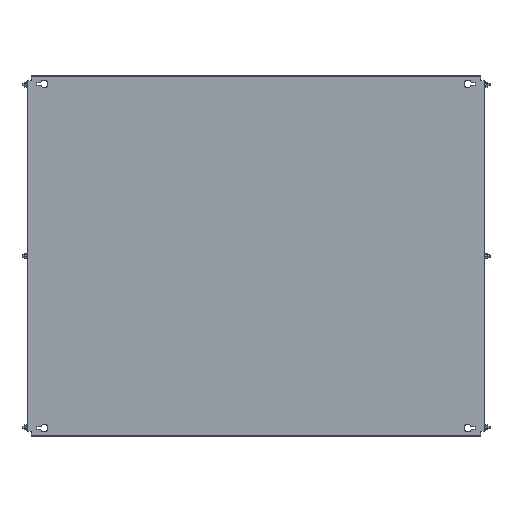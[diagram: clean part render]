
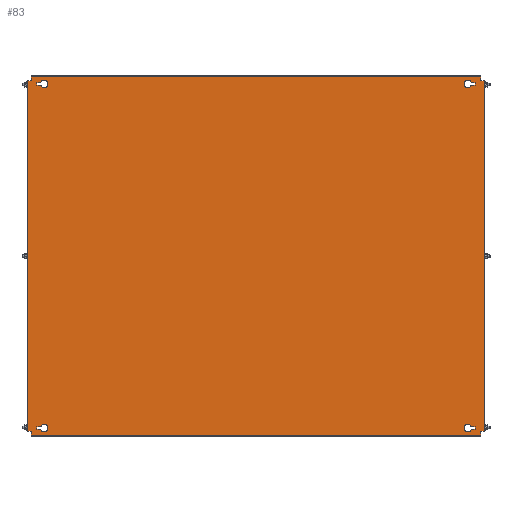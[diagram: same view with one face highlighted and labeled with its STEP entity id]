
A CAD part, top view. The second image highlights one B-rep face of the part: STEP entity #83.
In plain terms, the highlighted planar face has unit normal (0, 0, 1).
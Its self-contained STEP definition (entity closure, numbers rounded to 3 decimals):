
#83 = ADVANCED_FACE('',(#84,#119,#154,#316,#351),#386,.T.);
#84 = FACE_BOUND('',#85,.T.);
#85 = EDGE_LOOP('',(#86,#96,#104,#112));
#86 = ORIENTED_EDGE('',*,*,#87,.T.);
#87 = EDGE_CURVE('',#88,#90,#92,.T.);
#88 = VERTEX_POINT('',#89);
#89 = CARTESIAN_POINT('',(518.393,417.75,2.5));
#90 = VERTEX_POINT('',#91);
#91 = CARTESIAN_POINT('',(528.,417.75,2.5));
#92 = LINE('',#93,#94);
#93 = CARTESIAN_POINT('',(527.,417.75,2.5));
#94 = VECTOR('',#95,1.);
#95 = DIRECTION('',(1.,0.,0.));
#96 = ORIENTED_EDGE('',*,*,#97,.T.);
#97 = EDGE_CURVE('',#90,#98,#100,.T.);
#98 = VERTEX_POINT('',#99);
#99 = CARTESIAN_POINT('',(528.,411.25,2.5));
#100 = LINE('',#101,#102);
#101 = CARTESIAN_POINT('',(528.,417.75,2.5));
#102 = VECTOR('',#103,1.);
#103 = DIRECTION('',(0.,-1.,0.));
#104 = ORIENTED_EDGE('',*,*,#105,.T.);
#105 = EDGE_CURVE('',#98,#106,#108,.T.);
#106 = VERTEX_POINT('',#107);
#107 = CARTESIAN_POINT('',(518.393,411.25,2.5));
#108 = LINE('',#109,#110);
#109 = CARTESIAN_POINT('',(527.,411.25,2.5));
#110 = VECTOR('',#111,1.);
#111 = DIRECTION('',(-1.,0.,0.));
#112 = ORIENTED_EDGE('',*,*,#113,.T.);
#113 = EDGE_CURVE('',#106,#88,#114,.T.);
#114 = CIRCLE('',#115,9.);
#115 = AXIS2_PLACEMENT_3D('',#116,#117,#118);
#116 = CARTESIAN_POINT('',(510.,414.5,2.5));
#117 = DIRECTION('',(0.,0.,-1.));
#118 = DIRECTION('',(1.,0.,0.));
#119 = FACE_BOUND('',#120,.T.);
#120 = EDGE_LOOP('',(#121,#131,#139,#147));
#121 = ORIENTED_EDGE('',*,*,#122,.T.);
#122 = EDGE_CURVE('',#123,#125,#127,.T.);
#123 = VERTEX_POINT('',#124);
#124 = CARTESIAN_POINT('',(-518.393,-417.75,2.5));
#125 = VERTEX_POINT('',#126);
#126 = CARTESIAN_POINT('',(-528.,-417.75,2.5));
#127 = LINE('',#128,#129);
#128 = CARTESIAN_POINT('',(-527.,-417.75,2.5));
#129 = VECTOR('',#130,1.);
#130 = DIRECTION('',(-1.,0.,0.));
#131 = ORIENTED_EDGE('',*,*,#132,.T.);
#132 = EDGE_CURVE('',#125,#133,#135,.T.);
#133 = VERTEX_POINT('',#134);
#134 = CARTESIAN_POINT('',(-528.,-411.25,2.5));
#135 = LINE('',#136,#137);
#136 = CARTESIAN_POINT('',(-528.,-417.75,2.5));
#137 = VECTOR('',#138,1.);
#138 = DIRECTION('',(0.,1.,0.));
#139 = ORIENTED_EDGE('',*,*,#140,.T.);
#140 = EDGE_CURVE('',#133,#141,#143,.T.);
#141 = VERTEX_POINT('',#142);
#142 = CARTESIAN_POINT('',(-518.393,-411.25,2.5));
#143 = LINE('',#144,#145);
#144 = CARTESIAN_POINT('',(-527.,-411.25,2.5));
#145 = VECTOR('',#146,1.);
#146 = DIRECTION('',(1.,-0.,-0.));
#147 = ORIENTED_EDGE('',*,*,#148,.T.);
#148 = EDGE_CURVE('',#141,#123,#149,.T.);
#149 = CIRCLE('',#150,9.);
#150 = AXIS2_PLACEMENT_3D('',#151,#152,#153);
#151 = CARTESIAN_POINT('',(-510.,-414.5,2.5));
#152 = DIRECTION('',(0.,0.,-1.));
#153 = DIRECTION('',(-1.,0.,0.));
#154 = FACE_BOUND('',#155,.T.);
#155 = EDGE_LOOP('',(#156,#166,#174,#182,#190,#198,#206,#214,#222,#230,
    #238,#246,#254,#262,#270,#278,#286,#294,#302,#310));
#156 = ORIENTED_EDGE('',*,*,#157,.F.);
#157 = EDGE_CURVE('',#158,#160,#162,.T.);
#158 = VERTEX_POINT('',#159);
#159 = CARTESIAN_POINT('',(-546.9,422.5,2.5));
#160 = VERTEX_POINT('',#161);
#161 = CARTESIAN_POINT('',(-541.5,422.5,2.5));
#162 = LINE('',#163,#164);
#163 = CARTESIAN_POINT('',(-547.5,422.5,2.5));
#164 = VECTOR('',#165,1.);
#165 = DIRECTION('',(1.,0.,-0.));
#166 = ORIENTED_EDGE('',*,*,#167,.T.);
#167 = EDGE_CURVE('',#158,#168,#170,.T.);
#168 = VERTEX_POINT('',#169);
#169 = CARTESIAN_POINT('',(-550.,422.5,2.5));
#170 = LINE('',#171,#172);
#171 = CARTESIAN_POINT('',(-546.9,422.5,2.5));
#172 = VECTOR('',#173,1.);
#173 = DIRECTION('',(-1.,0.,0.));
#174 = ORIENTED_EDGE('',*,*,#175,.F.);
#175 = EDGE_CURVE('',#176,#168,#178,.T.);
#176 = VERTEX_POINT('',#177);
#177 = CARTESIAN_POINT('',(-550.,-422.5,2.5));
#178 = LINE('',#179,#180);
#179 = CARTESIAN_POINT('',(-550.,-432.,2.5));
#180 = VECTOR('',#181,1.);
#181 = DIRECTION('',(0.,1.,-0.));
#182 = ORIENTED_EDGE('',*,*,#183,.F.);
#183 = EDGE_CURVE('',#184,#176,#186,.T.);
#184 = VERTEX_POINT('',#185);
#185 = CARTESIAN_POINT('',(-546.9,-422.5,2.5));
#186 = LINE('',#187,#188);
#187 = CARTESIAN_POINT('',(-541.5,-422.5,2.5));
#188 = VECTOR('',#189,1.);
#189 = DIRECTION('',(-1.,-0.,-0.));
#190 = ORIENTED_EDGE('',*,*,#191,.T.);
#191 = EDGE_CURVE('',#184,#192,#194,.T.);
#192 = VERTEX_POINT('',#193);
#193 = CARTESIAN_POINT('',(-541.5,-422.5,2.5));
#194 = LINE('',#195,#196);
#195 = CARTESIAN_POINT('',(-547.5,-422.5,2.5));
#196 = VECTOR('',#197,1.);
#197 = DIRECTION('',(1.,0.,-0.));
#198 = ORIENTED_EDGE('',*,*,#199,.T.);
#199 = EDGE_CURVE('',#192,#200,#202,.T.);
#200 = VERTEX_POINT('',#201);
#201 = CARTESIAN_POINT('',(-541.5,-431.4,2.5));
#202 = LINE('',#203,#204);
#203 = CARTESIAN_POINT('',(-541.5,432.,2.5));
#204 = VECTOR('',#205,1.);
#205 = DIRECTION('',(0.,-1.,0.));
#206 = ORIENTED_EDGE('',*,*,#207,.T.);
#207 = EDGE_CURVE('',#200,#208,#210,.T.);
#208 = VERTEX_POINT('',#209);
#209 = CARTESIAN_POINT('',(-541.5,-432.,2.5));
#210 = LINE('',#211,#212);
#211 = CARTESIAN_POINT('',(-541.5,-431.4,2.5));
#212 = VECTOR('',#213,1.);
#213 = DIRECTION('',(-0.,-1.,-0.));
#214 = ORIENTED_EDGE('',*,*,#215,.T.);
#215 = EDGE_CURVE('',#208,#216,#218,.T.);
#216 = VERTEX_POINT('',#217);
#217 = CARTESIAN_POINT('',(541.5,-432.,2.5));
#218 = LINE('',#219,#220);
#219 = CARTESIAN_POINT('',(541.5,-432.,2.5));
#220 = VECTOR('',#221,1.);
#221 = DIRECTION('',(1.,0.,0.));
#222 = ORIENTED_EDGE('',*,*,#223,.F.);
#223 = EDGE_CURVE('',#224,#216,#226,.T.);
#224 = VERTEX_POINT('',#225);
#225 = CARTESIAN_POINT('',(541.5,-431.4,2.5));
#226 = LINE('',#227,#228);
#227 = CARTESIAN_POINT('',(541.5,-432.,2.5));
#228 = VECTOR('',#229,1.);
#229 = DIRECTION('',(0.,-1.,0.));
#230 = ORIENTED_EDGE('',*,*,#231,.T.);
#231 = EDGE_CURVE('',#224,#232,#234,.T.);
#232 = VERTEX_POINT('',#233);
#233 = CARTESIAN_POINT('',(541.5,-422.5,2.5));
#234 = LINE('',#235,#236);
#235 = CARTESIAN_POINT('',(541.5,432.,2.5));
#236 = VECTOR('',#237,1.);
#237 = DIRECTION('',(0.,1.,-0.));
#238 = ORIENTED_EDGE('',*,*,#239,.F.);
#239 = EDGE_CURVE('',#240,#232,#242,.T.);
#240 = VERTEX_POINT('',#241);
#241 = CARTESIAN_POINT('',(546.9,-422.5,2.5));
#242 = LINE('',#243,#244);
#243 = CARTESIAN_POINT('',(547.5,-422.5,2.5));
#244 = VECTOR('',#245,1.);
#245 = DIRECTION('',(-1.,0.,-0.));
#246 = ORIENTED_EDGE('',*,*,#247,.T.);
#247 = EDGE_CURVE('',#240,#248,#250,.T.);
#248 = VERTEX_POINT('',#249);
#249 = CARTESIAN_POINT('',(550.,-422.5,2.5));
#250 = LINE('',#251,#252);
#251 = CARTESIAN_POINT('',(546.9,-422.5,2.5));
#252 = VECTOR('',#253,1.);
#253 = DIRECTION('',(1.,-0.,0.));
#254 = ORIENTED_EDGE('',*,*,#255,.F.);
#255 = EDGE_CURVE('',#256,#248,#258,.T.);
#256 = VERTEX_POINT('',#257);
#257 = CARTESIAN_POINT('',(550.,422.5,2.5));
#258 = LINE('',#259,#260);
#259 = CARTESIAN_POINT('',(550.,-432.,2.5));
#260 = VECTOR('',#261,1.);
#261 = DIRECTION('',(0.,-1.,-0.));
#262 = ORIENTED_EDGE('',*,*,#263,.F.);
#263 = EDGE_CURVE('',#264,#256,#266,.T.);
#264 = VERTEX_POINT('',#265);
#265 = CARTESIAN_POINT('',(546.9,422.5,2.5));
#266 = LINE('',#267,#268);
#267 = CARTESIAN_POINT('',(-541.5,422.5,2.5));
#268 = VECTOR('',#269,1.);
#269 = DIRECTION('',(1.,-0.,0.));
#270 = ORIENTED_EDGE('',*,*,#271,.T.);
#271 = EDGE_CURVE('',#264,#272,#274,.T.);
#272 = VERTEX_POINT('',#273);
#273 = CARTESIAN_POINT('',(541.5,422.5,2.5));
#274 = LINE('',#275,#276);
#275 = CARTESIAN_POINT('',(547.5,422.5,2.5));
#276 = VECTOR('',#277,1.);
#277 = DIRECTION('',(-1.,0.,-0.));
#278 = ORIENTED_EDGE('',*,*,#279,.T.);
#279 = EDGE_CURVE('',#272,#280,#282,.T.);
#280 = VERTEX_POINT('',#281);
#281 = CARTESIAN_POINT('',(541.5,431.4,2.5));
#282 = LINE('',#283,#284);
#283 = CARTESIAN_POINT('',(541.5,432.,2.5));
#284 = VECTOR('',#285,1.);
#285 = DIRECTION('',(0.,1.,-0.));
#286 = ORIENTED_EDGE('',*,*,#287,.T.);
#287 = EDGE_CURVE('',#280,#288,#290,.T.);
#288 = VERTEX_POINT('',#289);
#289 = CARTESIAN_POINT('',(541.5,432.,2.5));
#290 = LINE('',#291,#292);
#291 = CARTESIAN_POINT('',(541.5,431.4,2.5));
#292 = VECTOR('',#293,1.);
#293 = DIRECTION('',(-0.,1.,-0.));
#294 = ORIENTED_EDGE('',*,*,#295,.T.);
#295 = EDGE_CURVE('',#288,#296,#298,.T.);
#296 = VERTEX_POINT('',#297);
#297 = CARTESIAN_POINT('',(-541.5,432.,2.5));
#298 = LINE('',#299,#300);
#299 = CARTESIAN_POINT('',(-541.5,432.,2.5));
#300 = VECTOR('',#301,1.);
#301 = DIRECTION('',(-1.,0.,0.));
#302 = ORIENTED_EDGE('',*,*,#303,.F.);
#303 = EDGE_CURVE('',#304,#296,#306,.T.);
#304 = VERTEX_POINT('',#305);
#305 = CARTESIAN_POINT('',(-541.5,431.4,2.5));
#306 = LINE('',#307,#308);
#307 = CARTESIAN_POINT('',(-541.5,-432.,2.5));
#308 = VECTOR('',#309,1.);
#309 = DIRECTION('',(0.,1.,-0.));
#310 = ORIENTED_EDGE('',*,*,#311,.T.);
#311 = EDGE_CURVE('',#304,#160,#312,.T.);
#312 = LINE('',#313,#314);
#313 = CARTESIAN_POINT('',(-541.5,432.,2.5));
#314 = VECTOR('',#315,1.);
#315 = DIRECTION('',(0.,-1.,0.));
#316 = FACE_BOUND('',#317,.T.);
#317 = EDGE_LOOP('',(#318,#328,#336,#344));
#318 = ORIENTED_EDGE('',*,*,#319,.F.);
#319 = EDGE_CURVE('',#320,#322,#324,.T.);
#320 = VERTEX_POINT('',#321);
#321 = CARTESIAN_POINT('',(528.,-411.25,2.5));
#322 = VERTEX_POINT('',#323);
#323 = CARTESIAN_POINT('',(518.393,-411.25,2.5));
#324 = LINE('',#325,#326);
#325 = CARTESIAN_POINT('',(518.393,-411.25,2.5));
#326 = VECTOR('',#327,1.);
#327 = DIRECTION('',(-1.,0.,0.));
#328 = ORIENTED_EDGE('',*,*,#329,.F.);
#329 = EDGE_CURVE('',#330,#320,#332,.T.);
#330 = VERTEX_POINT('',#331);
#331 = CARTESIAN_POINT('',(528.,-417.75,2.5));
#332 = LINE('',#333,#334);
#333 = CARTESIAN_POINT('',(528.,-411.25,2.5));
#334 = VECTOR('',#335,1.);
#335 = DIRECTION('',(0.,1.,0.));
#336 = ORIENTED_EDGE('',*,*,#337,.F.);
#337 = EDGE_CURVE('',#338,#330,#340,.T.);
#338 = VERTEX_POINT('',#339);
#339 = CARTESIAN_POINT('',(518.393,-417.75,2.5));
#340 = LINE('',#341,#342);
#341 = CARTESIAN_POINT('',(527.,-417.75,2.5));
#342 = VECTOR('',#343,1.);
#343 = DIRECTION('',(1.,0.,0.));
#344 = ORIENTED_EDGE('',*,*,#345,.F.);
#345 = EDGE_CURVE('',#322,#338,#346,.T.);
#346 = CIRCLE('',#347,9.);
#347 = AXIS2_PLACEMENT_3D('',#348,#349,#350);
#348 = CARTESIAN_POINT('',(510.,-414.5,2.5));
#349 = DIRECTION('',(0.,-0.,1.));
#350 = DIRECTION('',(1.,0.,0.));
#351 = FACE_BOUND('',#352,.T.);
#352 = EDGE_LOOP('',(#353,#363,#371,#379));
#353 = ORIENTED_EDGE('',*,*,#354,.F.);
#354 = EDGE_CURVE('',#355,#357,#359,.T.);
#355 = VERTEX_POINT('',#356);
#356 = CARTESIAN_POINT('',(-528.,411.25,2.5));
#357 = VERTEX_POINT('',#358);
#358 = CARTESIAN_POINT('',(-518.393,411.25,2.5));
#359 = LINE('',#360,#361);
#360 = CARTESIAN_POINT('',(-518.393,411.25,2.5));
#361 = VECTOR('',#362,1.);
#362 = DIRECTION('',(1.,0.,0.));
#363 = ORIENTED_EDGE('',*,*,#364,.F.);
#364 = EDGE_CURVE('',#365,#355,#367,.T.);
#365 = VERTEX_POINT('',#366);
#366 = CARTESIAN_POINT('',(-528.,417.75,2.5));
#367 = LINE('',#368,#369);
#368 = CARTESIAN_POINT('',(-528.,411.25,2.5));
#369 = VECTOR('',#370,1.);
#370 = DIRECTION('',(0.,-1.,0.));
#371 = ORIENTED_EDGE('',*,*,#372,.F.);
#372 = EDGE_CURVE('',#373,#365,#375,.T.);
#373 = VERTEX_POINT('',#374);
#374 = CARTESIAN_POINT('',(-518.393,417.75,2.5));
#375 = LINE('',#376,#377);
#376 = CARTESIAN_POINT('',(-527.,417.75,2.5));
#377 = VECTOR('',#378,1.);
#378 = DIRECTION('',(-1.,0.,0.));
#379 = ORIENTED_EDGE('',*,*,#380,.F.);
#380 = EDGE_CURVE('',#357,#373,#381,.T.);
#381 = CIRCLE('',#382,9.);
#382 = AXIS2_PLACEMENT_3D('',#383,#384,#385);
#383 = CARTESIAN_POINT('',(-510.,414.5,2.5));
#384 = DIRECTION('',(0.,-0.,1.));
#385 = DIRECTION('',(-1.,0.,0.));
#386 = PLANE('',#387);
#387 = AXIS2_PLACEMENT_3D('',#388,#389,#390);
#388 = CARTESIAN_POINT('',(-541.5,-432.,2.5));
#389 = DIRECTION('',(-0.,0.,1.));
#390 = DIRECTION('',(1.,0.,0.));
